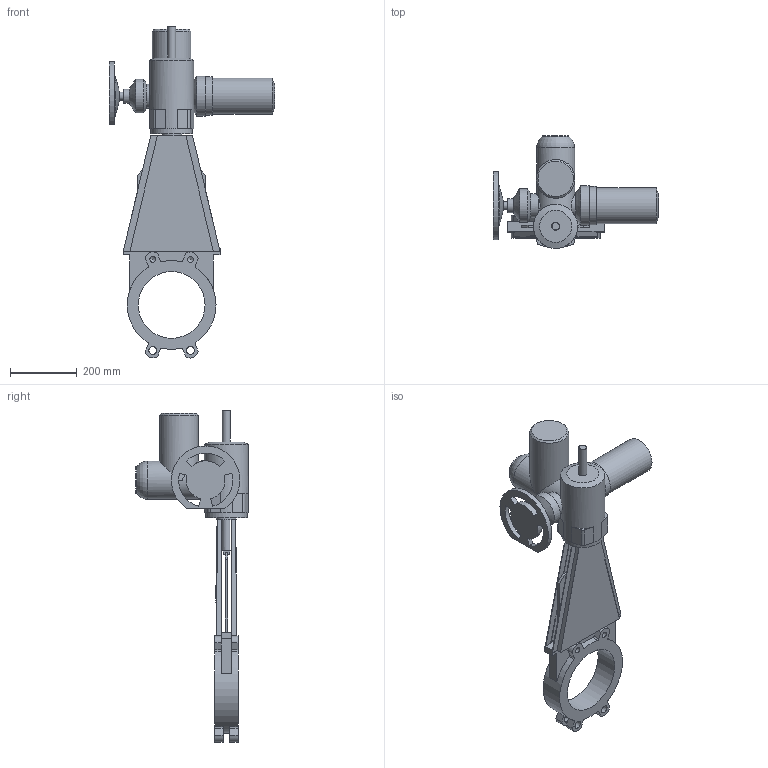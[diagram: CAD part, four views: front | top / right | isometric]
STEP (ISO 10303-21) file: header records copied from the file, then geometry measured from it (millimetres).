
FILE_DESCRIPTION(('STEP AP203'), '1');
FILE_NAME('K51GVA_DN200+MT903.A 10', '', ('UNSPECIFIED'), ('UNSPECIFIED'), 'ASCON STEP Converter 1.6', 'ASCON Math Kernel', '');
FILE_SCHEMA(('CONFIG_CONTROL_DESIGN'));
Length unit declared in the file: millimetre
Bounding box: 494 x 338 x 993.81 mm (x, y, z)
Volume: 13195544.7 mm3; surface area: 1113590.3 mm2
Topology: 1 solids, 1 shells, 234 faces, 634 edges, 409 vertices
Faces by surface type: plane 138, cylinder 81, cone 14, torus 1
Full cylindrical faces by diameter (mm): 8.5 x4, 12 x4, 17.294 x4, 23 x4, 24 x3, 42 x1, 60 x1, 66 x1, 72 x1, 80 x1, 100 x1, 108 x1, 114 x1, 115 x1, 116 x1, 119 x1, 125 x1, 132 x1, 200 x1
Entity records: 10131 total; most frequent: CARTESIAN_POINT 2363, DIRECTION 1233, ORIENTED_EDGE 1162, EDGE_CURVE 581, AXIS2_PLACEMENT_3D 436, VERTEX_POINT 405, LINE 361, VECTOR 361
